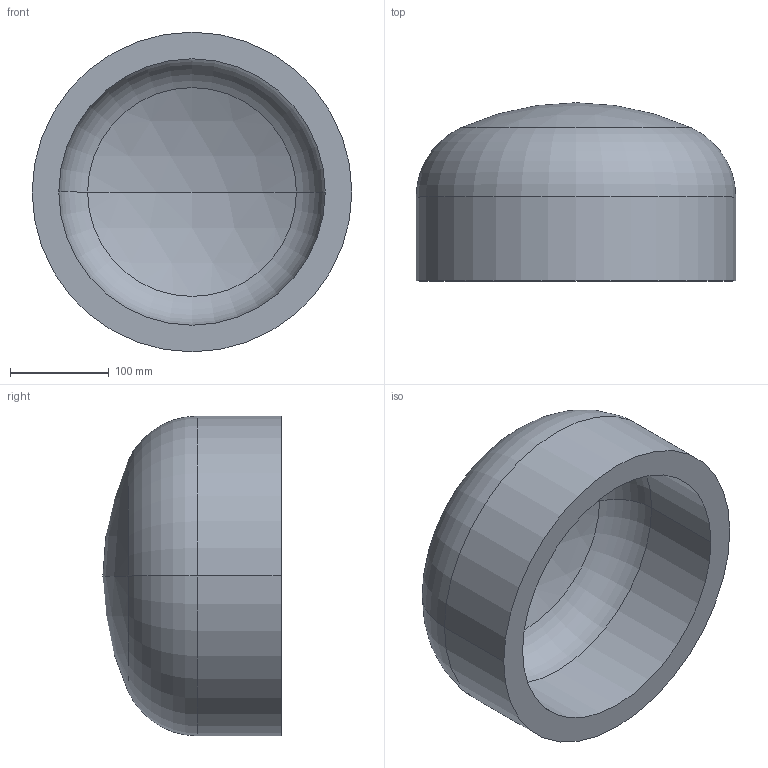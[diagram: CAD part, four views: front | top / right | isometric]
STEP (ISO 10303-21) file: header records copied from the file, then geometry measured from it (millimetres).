
FILE_DESCRIPTION (( 'STEP AP203' ), '1' );
FILE_NAME ('DIN 28013 Korbbogenform_-_Boden DIN 28013 - 323,9 x 85 - I - s=27.step', '2016-07-01T07:45:02', ( '' ), ( '' ), 'SwSTEP 2.0', 'SolidWorks 2013', '' );
FILE_SCHEMA (( 'CONFIG_CONTROL_DESIGN' ));
Length unit declared in the file: millimetre
Products named in the file (1): DIN 28013 Korbbogenform_-_Boden DIN 28013 - 323,9 x 85 - I - s=27
Bounding box: 323.9 x 180.53 x 323.9 mm (x, y, z)
Volume: 4919875.1 mm3; surface area: 391145.9 mm2
Topology: 1 solids, 1 shells, 13 faces, 24 edges, 14 vertices
Faces by surface type: torus 4, cylinder 4, sphere 4, plane 1
Entity records: 407 total; most frequent: DIRECTION 72, CARTESIAN_POINT 52, ORIENTED_EDGE 48, AXIS2_PLACEMENT_3D 34, EDGE_CURVE 24, CIRCLE 20, VERTEX_POINT 14, EDGE_LOOP 14
